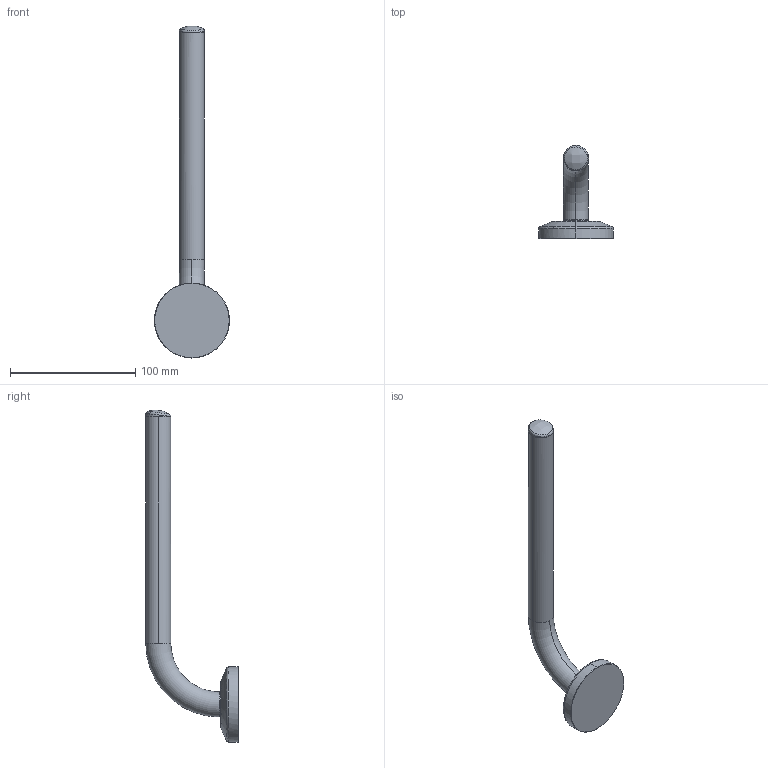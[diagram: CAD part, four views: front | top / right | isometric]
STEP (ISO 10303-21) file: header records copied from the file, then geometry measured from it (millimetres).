
FILE_DESCRIPTION(('THIS FILE CONTAINS SOME STEP INSTANCES'),'1');
FILE_NAME('sta_021.stp','2015-11-30T12:00:09',('UNDEFINED'),('UNDEFINED'),'T-FLEX CAD STEP converter','T-FLEX CAD','');
FILE_SCHEMA(('CONFIG_CONTROL_DESIGN'));
Length unit declared in the file: metre
Products named in the file (1): 3D 鐨飹懤艜_9
Bounding box: 59.96 x 74.1 x 265.58 mm (x, y, z)
Volume: 117516.3 mm3; surface area: 23890.6 mm2
Topology: 1 solids, 1 shells, 27 faces, 58 edges, 34 vertices
Faces by surface type: cone 8, cylinder 8, torus 6, bspline 3, plane 2
Entity records: 1989 total; most frequent: CARTESIAN_POINT 1495, ORIENTED_EDGE 116, DIRECTION 80, EDGE_CURVE 58, VERTEX_POINT 34, AXIS2_PLACEMENT_3D 32, EDGE_LOOP 28, ADVANCED_FACE 27
